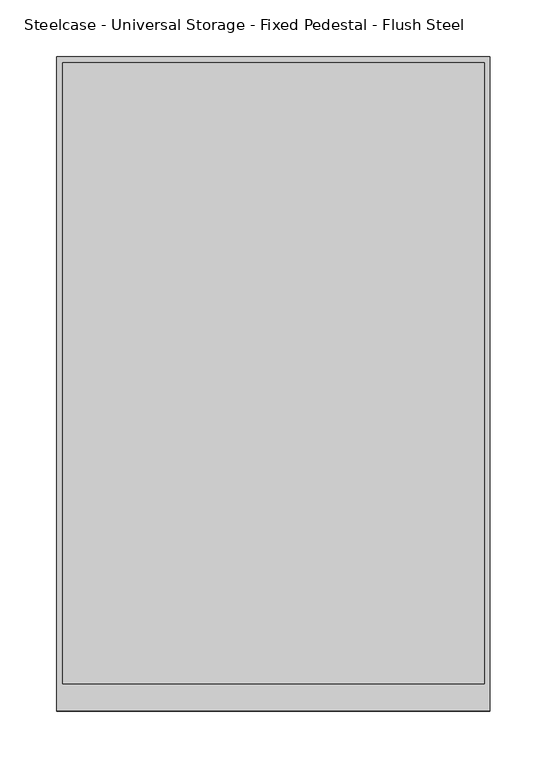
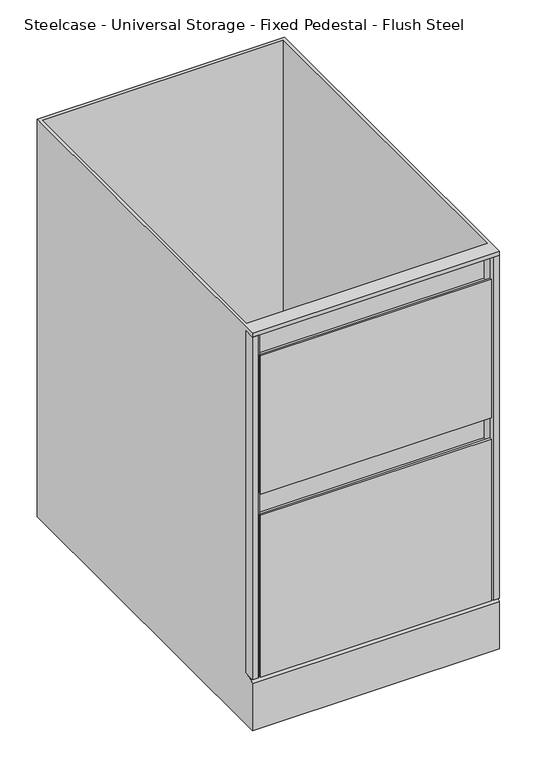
"""IFC4 building model written with IfcOpenShell, lengths in millimetres: furniture geometry, Steelcase - Universal Storage - Fixed Pedestal - Flush Steel : 2 File - 25 1/2H x 22 5/8D."""

from ifc_helpers import new_model, si_unit, frame, origin, place, context, project, spatial, polyline, outline, extrude, faceted_brep, source, transform, mapped, element, save


def steelcase_universal_storage_fixed_pedestal_flush_steel_8caefca2(model_context):
    return source(origin(), model_context, "Body", "SolidModel", [
        extrude(outline(polyline([(368.3000121, 0.0), (12.7000004, 0.0), (12.7000004, 3.1750001), (368.3000121, 3.1750001), (368.3000121, 0.0)])), frame((0.0, 0.0, 381.0000363), z_axis=(0.0, 0.0, 1.0), x_axis=(1.0, 0.0, 0.0)), (0.0, 0.0, 1.0), 225.4249394),
        extrude(outline(polyline([(368.3000121, 3.1750001), (12.7000004, 3.1750001), (12.7000004, 19.0495469), (368.3000121, 19.0495469), (368.3000121, 3.1750001)])), frame((0.0, 0.0, 82.550003), z_axis=(0.0, 0.0, 1.0), x_axis=(1.0, 0.0, 0.0)), (0.0, 0.0, 1.0), 254.000003),
        extrude(outline(polyline([(368.3000121, 3.1750001), (12.7000004, 3.1750001), (12.7000004, 19.0495469), (368.3000121, 19.0495469), (368.3000121, 3.1750001)])), frame((0.0, 0.0, 381.0000363), z_axis=(0.0, 0.0, 1.0), x_axis=(1.0, 0.0, 0.0)), (0.0, 0.0, 1.0), 101.7269637),
        extrude(outline(polyline([(368.3000121, 3.1750001), (12.7000004, 3.1750001), (12.7000004, 19.0495469), (368.3000121, 19.0495469), (368.3000121, 3.1750001)])), frame((0.0, 0.0, 492.1250121), z_axis=(0.0, 0.0, 1.0), x_axis=(1.0, 0.0, 0.0)), (0.0, 0.0, 1.0), 104.7749637),
        extrude(outline(polyline([(368.3000121, 0.0), (12.7000004, 0.0), (12.7000004, 3.1750001), (368.3000121, 3.1750001), (368.3000121, 0.0)])), frame((0.0, 0.0, 82.550003), z_axis=(0.0, 0.0, 1.0), x_axis=(1.0, 0.0, 0.0)), (0.0, 0.0, 1.0), 263.5249849),
        faceted_brep([(381.0, 0.0, 641.3500242), (381.0, 19.0495469, 641.3500242), (381.0, 19.0495469, 82.550003), (381.0, 6.350003, 82.550003), (381.0, 0.0, 76.2), (381.0, 0.0, 0.0), (381.0, 574.802, 0.0), (381.0, 574.802, 647.7), (381.0, 0.0, 647.7), (0.0, 0.0, 641.3500242), (0.0, 0.0, 647.7), (0.0, 574.802, 647.7), (0.0, 574.802, 0.0), (0.0, 0.0, 0.0), (0.0, 0.0, 76.2), (0.0, 6.350003, 82.550003), (0.0, 19.0495469, 82.550003), (0.0, 19.0495469, 641.3500242), (5.08, 569.722, 647.7), (375.92, 569.722, 647.7), (375.92, 24.1295469, 647.7), (5.08, 24.1295469, 647.7), (375.92, 569.722, 82.550003), (5.08, 569.722, 82.550003), (5.08, 24.1295469, 82.550003), (375.92, 24.1295469, 82.550003)], [[[0, 1, 2, 3, 4, 5, 6, 7, 8]], [[9, 10, 11, 12, 13, 14, 15, 16, 17]], [[1, 0, 9, 17]], [[2, 1, 17, 16]], [[2, 16, 15, 3]], [[13, 5, 4, 14]], [[6, 5, 13, 12]], [[7, 6, 12, 11]], [[8, 7, 11, 10], [18, 19, 20, 21]], [[0, 8, 10, 9]], [[4, 3, 15, 14]], [[22, 23, 24, 25]], [[23, 22, 19, 18]], [[24, 23, 18, 21]], [[25, 24, 21, 20]], [[22, 25, 20, 19]]]),
        extrude(outline(polyline([(12.7000004, 19.0495469), (12.7000004, 3.1750001), (9.5250003, 0.0), (0.0, 0.0), (0.0, 19.0495469), (12.7000004, 19.0495469)])), frame((0.0, 0.0, 82.550003), z_axis=(0.0, 0.0, 1.0), x_axis=(1.0, 0.0, 0.0)), (0.0, 0.0, 1.0), 558.8000212),
        extrude(outline(polyline([(381.0000125, 19.0495469), (381.0000125, 0.0), (371.4750122, 0.0), (368.3000121, 3.1750001), (368.3000121, 19.0495469), (381.0000125, 19.0495469)])), frame((0.0, 0.0, 82.550003), z_axis=(0.0, 0.0, 1.0), x_axis=(1.0, 0.0, 0.0)), (0.0, 0.0, 1.0), 558.8000212),
    ])


if __name__ == "__main__":
    model = new_model("IFC4")
    model_context = context("Model", 3, world=origin())
    ifc_project = project(units=[si_unit("LENGTHUNIT", "METRE", prefix="MILLI")], contexts=[model_context])
    site = spatial("IfcSite", under=ifc_project)
    building = spatial("IfcBuilding", under=site)
    placement = place(None, origin())
    steelcase_universal_storage_fixed_pedestal_flush_steel_shape = steelcase_universal_storage_fixed_pedestal_flush_steel_8caefca2(model_context)
    element("IfcFurniture", 1, ObjectType="Steelcase - Universal Storage - Fixed Pedestal - Flush Steel : 2 File - 25 1/2H x 22 5/8D", at=placement, inside=building, context=model_context, shape_type="MappedRepresentation", body=[
        mapped(steelcase_universal_storage_fixed_pedestal_flush_steel_shape, transform((0.0, 0.0, 0.0), x_axis=(1.0, 0.0, 0.0), y_axis=(0.0, 1.0, 0.0), z_axis=(0.0, 0.0, 1.0))),
    ])
    save(model, "model.ifc")
